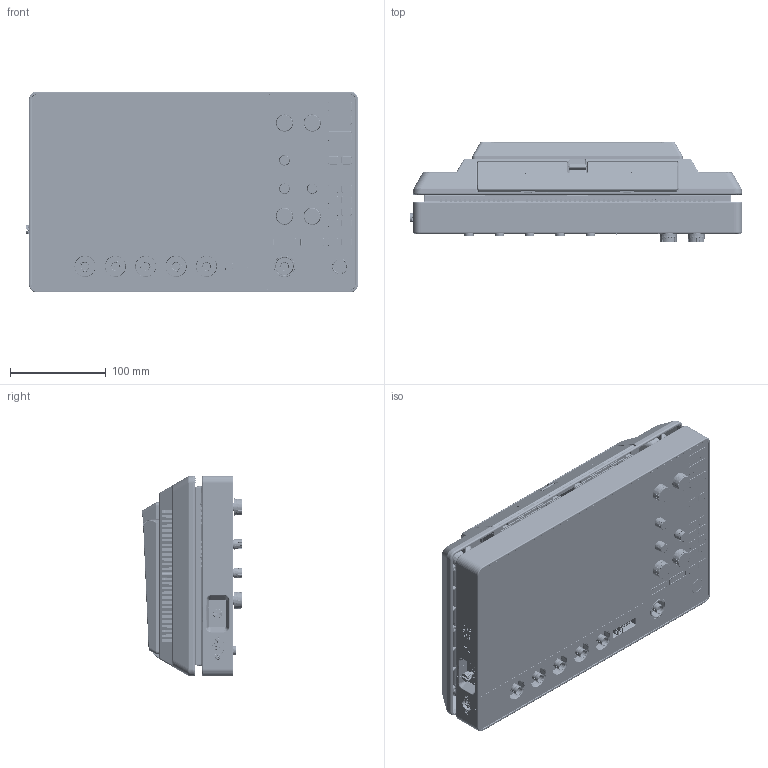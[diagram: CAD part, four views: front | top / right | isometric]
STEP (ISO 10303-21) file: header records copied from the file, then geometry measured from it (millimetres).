
FILE_DESCRIPTION((''),'2;1');
FILE_NAME('MASTER_ACC_LEXINGTON_LXN_ASM','2023-03-27T14:23:08',('mthomps2'),(''),'CREO PARAMETRIC BY PTC INC, 2022284','CREO PARAMETRIC BY PTC INC, 2022284','');
FILE_SCHEMA(('CONFIG_CONTROL_DESIGN','SHAPE_APPEARANCE_LAYERS_GROUPS'));
Products named in the file (76): COVERGLASS_MINIE_LXN; TOUCH-COVERGLASS_LXN_ASM; MODULE_TOUCH-DISPLAY_LXN_ASM; 4CH_LABEL_FRONT_IO; MEMBRANE_SWITCH_MINIE_LXN; MEMBRANE_SWITCH_CIRCUIT_LXN; SWITCH_DOME_8-89_17-78MM_LXN; SWITCH_DOME_8-4MM-PT28MM_TRT; MEMBRANE_SPACER_FP_LXN; MEMBRANE_SWITCH_FP_LXN_ASM; KNOB_SMALL_LXN; KNOB_SPRING_R66; KNOB_SMALL_W_SPRING_LXN_ASM; KNOB_MID_LXN; KNOB_MID_W_SPRING_LXN_ASM; GASKET_FOF_DISPLAY-GND_LXN; MODULE_FRONT_LXN_ASM; FRONT_CASE_SUPERB_HULL_LXN; SUPERB_HULL_ASSEMBLY_LXN_ASM; ADHESIVE_VHB_FERRITE_LXN; HOUSING_GROUND_LUG_LXN; FAN_45X10P3_12V_4WIRE_DELTA_RDK; CONN_1X4_CABLE_100CTR_LATCH_RDK; CRIMP_CONTACT_SNAP-IN_28-32_RDK; FAN_45X10P3_12V_4WIRE_DELTA_RDK_ASM; SCREW_MM_PH_TX_PT_M2PT5X8_; FERRITE_CABLE_SNAP-ON_LXN; CONN_2X2_4PINDINPWR_DW_F_PNL_LX; CONN_1X3_MICROFIT_DW_F_CAB_LIB; CONN_RING-TERMINAL_M3P5_LXN; CONTACT_18AWG_GLD_MINIFIT_LXN; CABLE_DCPOWER_INLET_01_LXN; CABLE_DC_PWR_STRAIGHT_01_LXN; HEATSHRINK_DC_CONNECTOR_LXN; LABLE_IEC_HARNESS_PN_LXN; HEATSHRNK_LABEL_DCPWR_01_LXN; DIODE_LEADED_AXIAL_DC-CABLE_LXN_AF0; SPLICE_CRIMP_DELPHI_5297428_LXN; HEATSHRINK_DC_PWR_DIODE_LXN; HEATSHRINK_DC_PWR_DIODE_LXN_AF0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
Assembly tree (155 placements, depth 6):
  MASTER_ACC_LEXINGTON_LXN_ASM
    MASTER_LEXINGTON_LXN_ASM
      MODULE_FRONT_LXN_ASM
        MODULE_TOUCH-DISPLAY_LXN_ASM
          TOUCH-COVERGLASS_LXN_ASM
            COVERGLASS_MINIE_LXN
        4CH_LABEL_FRONT_IO
        MEMBRANE_SWITCH_FP_LXN_ASM
          MEMBRANE_SWITCH_MINIE_LXN
          MEMBRANE_SWITCH_CIRCUIT_LXN
          SWITCH_DOME_8-89_17-78MM_LXN  x3
          SWITCH_DOME_8-4MM-PT28MM_TRT  x15
          MEMBRANE_SPACER_FP_LXN
        KNOB_SMALL_W_SPRING_LXN_ASM  x3
          KNOB_SMALL_LXN
          KNOB_SPRING_R66
        KNOB_MID_W_SPRING_LXN_ASM  x4
          KNOB_MID_LXN
          KNOB_SPRING_R66
        GASKET_FOF_DISPLAY-GND_LXN  x3
      MODULE_CHASSIS_LXN_ASM
        SUPERB_HULL_ASSEMBLY_LXN_ASM
          FRONT_CASE_SUPERB_HULL_LXN
        ADHESIVE_VHB_FERRITE_LXN
        HOUSING_GROUND_LUG_LXN
        FAN_45X10P3_12V_4WIRE_DELTA_RDK_ASM  x2
          FAN_45X10P3_12V_4WIRE_DELTA_RDK
          CONN_1X4_CABLE_100CTR_LATCH_RDK
          CRIMP_CONTACT_SNAP-IN_28-32_RDK
        SCREW_MM_PH_TX_PT_M2PT5X8_  x2
        FERRITE_CABLE_SNAP-ON_LXN
        CABLE_DCPOWER_INLET_01_LXN_ASM
          CONN_2X2_4PINDINPWR_DW_F_PNL_LX
          CONN_1X3_MICROFIT_DW_F_CAB_LIB  x2
          CONN_RING-TERMINAL_M3P5_LXN  x2
          CONTACT_18AWG_GLD_MINIFIT_LXN  x3
          CABLE_DCPOWER_INLET_01_LXN
          CABLE_DC_PWR_STRAIGHT_01_LXN
          HEATSHRINK_DC_CONNECTOR_LXN  x4
          LABLE_IEC_HARNESS_PN_LXN
          HEATSHRNK_LABEL_DCPWR_01_LXN
          DIODE_LEADED_AXIAL_DC-CABLE_LXN_AF0
          SPLICE_CRIMP_DELPHI_5297428_LXN  x2
          HEATSHRINK_DC_PWR_DIODE_LXN
          HEATSHRINK_DC_PWR_DIODE_LXN_AF0
          DIODE_LEADED_AXIAL_DC-CABLE_LXN_AF1
          HEATSHRINK_DC_PWR_DIODE_LXN_AF1
      MODULE_REAR_LXN_ASM
        CASE_REAR_LXN_ASM
          CASE_REAR_LXN
          PEM-IUB-M4-2  x8
      MODULE_PCB_MAIN_LXN_ASM
        PCB_MAIN_LXN_ASM
          CONN_BNC_LXN  x6
          TRANSFORMER_G-BIT_RJ45_EMI_LIB
          CONN_1X4_USB_TH_F_RA_B_LIB
          CONN_1X4_USB_RA_DUAL_PBFREE_LIB
          CONN_PROBE_COMP_LXN  x2
          CONN_2X4_SQPIN_TH_M_STR_720_LIB
        GUIDE_MSO_PROBE_LXN
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Bounding box: 347.14 x 104.7 x 210 mm (x, y, z)
Volume: 1252069 mm3; surface area: 1172461 mm2
Topology: 150 solids, 153 shells, 31094 faces, 81266 edges, 50742 vertices
Faces by surface type: plane 11121, cylinder 8968, bspline 5567, cone 2457, torus 1820, sphere 738, extrusion 423
Entity records: 1197483 total; most frequent: CARTESIAN_POINT 402985, ORIENTED_EDGE 113381, DIRECTION 95798, PRESENTATION_STYLE_ASSIGNMENT 70390, STYLED_ITEM 70363, EDGE_CURVE 56717, CURVE_STYLE 52156, VERTEX_POINT 35093
